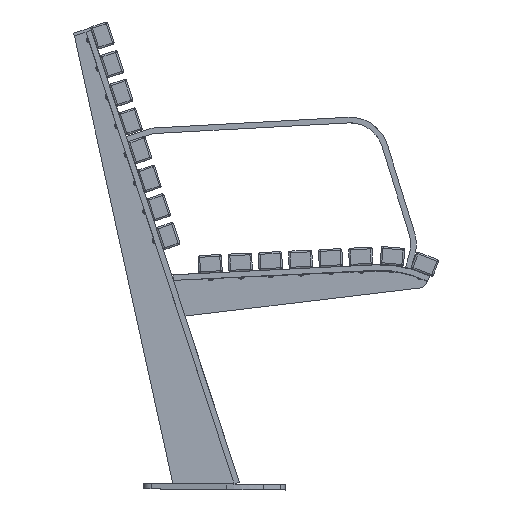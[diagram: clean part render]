
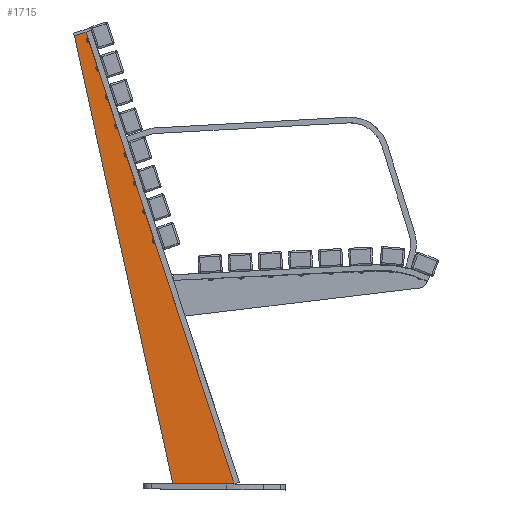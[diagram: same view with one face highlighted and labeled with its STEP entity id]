
A CAD part, left-side view. The second image highlights one B-rep face of the part: STEP entity #1715.
In plain terms, the highlighted planar face has unit normal (-1, 0, 0).
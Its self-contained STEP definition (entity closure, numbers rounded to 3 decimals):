
#1715=ADVANCED_FACE('',(#5136),#53138,.T.);
#5136=FACE_OUTER_BOUND('',#8561,.T.);
#8561=EDGE_LOOP('',(#12383,#12384,#12385,#12386));
#12383=ORIENTED_EDGE('',*,*,#29880,.T.);
#12384=ORIENTED_EDGE('',*,*,#29870,.T.);
#12385=ORIENTED_EDGE('',*,*,#29873,.T.);
#12386=ORIENTED_EDGE('',*,*,#29876,.T.);
#29870=EDGE_CURVE('',#47402,#47401,#38618,.T.);
#29873=EDGE_CURVE('',#47401,#47404,#38621,.T.);
#29876=EDGE_CURVE('',#47404,#47406,#38624,.T.);
#29880=EDGE_CURVE('',#47406,#47402,#38628,.T.);
#38618=B_SPLINE_CURVE_WITH_KNOTS('',1,(#58906,#58907),.UNSPECIFIED.,.F.,
 .F.,(2,2),(0.,2.2),.UNSPECIFIED.);
#38621=B_SPLINE_CURVE_WITH_KNOTS('',1,(#58912,#58913),.UNSPECIFIED.,.F.,
 .F.,(2,2),(0.,82.11),.UNSPECIFIED.);
#38624=B_SPLINE_CURVE_WITH_KNOTS('',1,(#58918,#58919),.UNSPECIFIED.,.F.,
 .F.,(2,2),(0.,10.973),.UNSPECIFIED.);
#38628=B_SPLINE_CURVE_WITH_KNOTS('',1,(#58926,#58927),.UNSPECIFIED.,.F.,
 .F.,(2,2),(0.,85.2),.UNSPECIFIED.);
#47401=VERTEX_POINT('',#58898);
#47402=VERTEX_POINT('',#58899);
#47404=VERTEX_POINT('',#58901);
#47406=VERTEX_POINT('',#58903);
#53138=PLANE('',#56559);
#56559=AXIS2_PLACEMENT_3D('',#58895,#57623,$);
#57623=DIRECTION('',(-1.,0.,0.));
#58895=CARTESIAN_POINT('',(70.,366.188,10.731));
#58898=CARTESIAN_POINT('',(70.,652.375,813.54));
#58899=CARTESIAN_POINT('',(70.,631.469,820.39));
#58901=CARTESIAN_POINT('',(70.,475.929,11.618));
#58903=CARTESIAN_POINT('',(70.,366.201,10.738));
#58906=CARTESIAN_POINT('',(70.,631.469,820.39));
#58907=CARTESIAN_POINT('',(70.,652.375,813.54));
#58912=CARTESIAN_POINT('',(70.,652.375,813.54));
#58913=CARTESIAN_POINT('',(70.,475.929,11.618));
#58918=CARTESIAN_POINT('',(70.,475.929,11.618));
#58919=CARTESIAN_POINT('',(70.,366.201,10.738));
#58926=CARTESIAN_POINT('',(70.,366.201,10.738));
#58927=CARTESIAN_POINT('',(70.,631.469,820.39));
